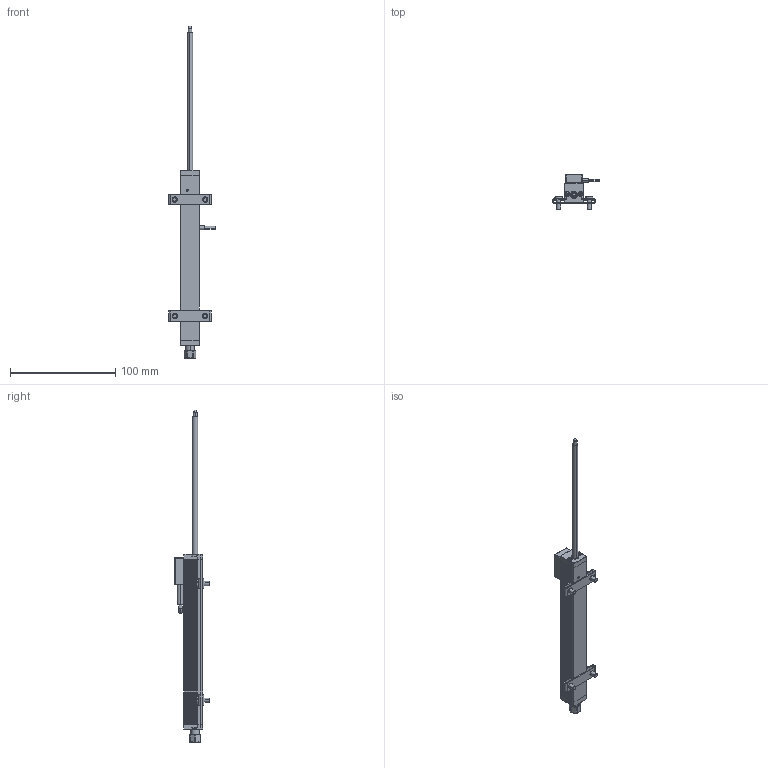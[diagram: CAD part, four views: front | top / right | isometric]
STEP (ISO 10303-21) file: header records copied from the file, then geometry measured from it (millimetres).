
FILE_DESCRIPTION (( 'STEP AP214' ), '1' );
FILE_NAME ('TR_100.STEP', '2008-11-05T12:26:55', ( 'novotechnik' ), ( 'novotechnik' ), 'SwSTEP 2.0', 'SolidWorks 2008', '' );
FILE_SCHEMA (( 'AUTOMOTIVE_DESIGN' ));
Length unit declared in the file: millimetre
Products named in the file (4): TR_TRS_100_-_Schubstange_Standard; TR_100_-_Gehaeuse_Standard; T-Serie_Klammer_Standard; TR_100
Assembly tree (4 placements, depth 2):
  TR_100
    TR_TRS_100_-_Schubstange_Standard
    T-Serie_Klammer_Standard  x2
    TR_100_-_Gehaeuse_Standard
Bounding box: 44.13 x 33.19 x 315 mm (x, y, z)
Volume: 63619.8 mm3; surface area: 31058.1 mm2
Topology: 21 solids, 21 shells, 945 faces, 2290 edges, 1409 vertices
Faces by surface type: cylinder 476, plane 262, bspline 115, cone 90, torus 2
Entity records: 37374 total; most frequent: CARTESIAN_POINT 6878, DIRECTION 4538, ORIENTED_EDGE 4232, EDGE_CURVE 2116, AXIS2_PLACEMENT_3D 1781, VERTEX_POINT 1305, CIRCLE 1010, VECTOR 976
